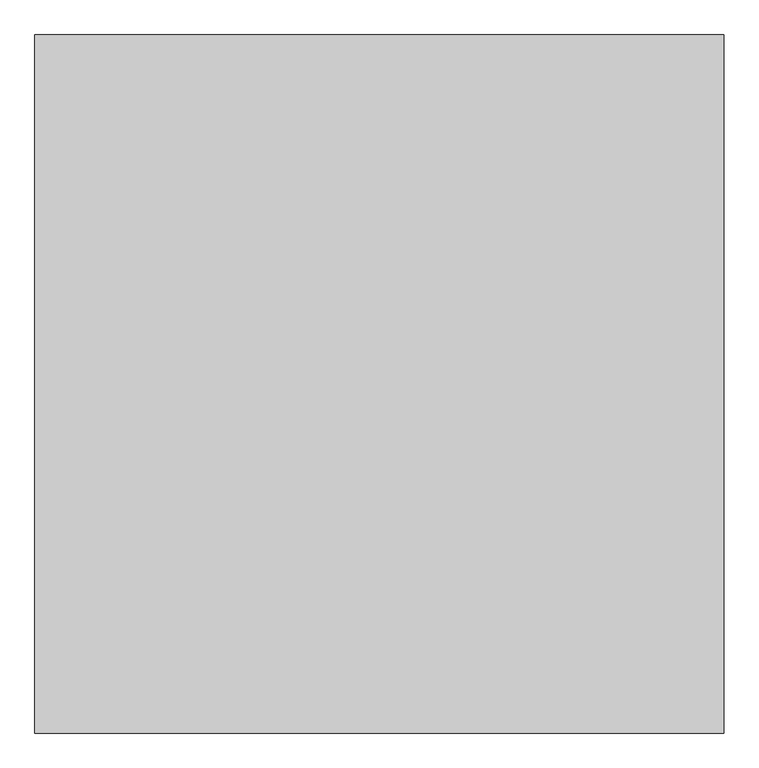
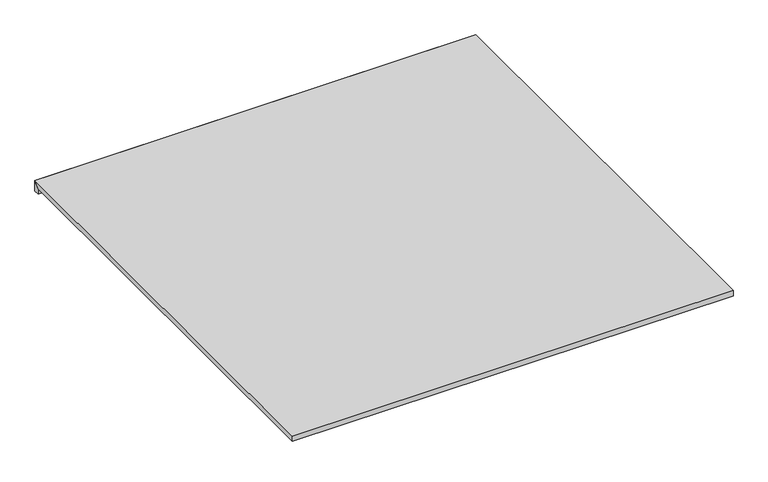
"""IFC4 building model written with IfcOpenShell, lengths in millimetres: proxy geometry, AERO^OFFICE 1_WALL HUNGS-60x60 LT."""

from ifc_helpers import new_model, si_unit, frame, origin, place, context, project, spatial, polyline, outline, extrude, source, transform, mapped, element, save


def generic_models_580d9588(model_context):
    return source(origin(), model_context, "Body", "SweptSolid", [
        extrude(outline(polyline([(1543.05, 19.05), (1524.0, 0.0), (0.0, 0.0), (0.0, 19.05), (1543.05, 19.05)])), frame((0.0, 0.0, 0.0), z_axis=(1.0, 0.0, 0.0), x_axis=(0.0, 1.0, 0.0)), (0.0, 0.0, 1.0), 1524.0),
        extrude(outline(polyline([(1543.05, 19.05), (1543.05, -19.05), (1524.0, -19.05), (1524.0, 0.0), (1543.05, 19.05)])), frame((0.0, 0.0, 0.0), z_axis=(1.0, 0.0, 0.0), x_axis=(0.0, 1.0, 0.0)), (0.0, 0.0, 1.0), 1524.0),
    ])


if __name__ == "__main__":
    model = new_model("IFC4")
    model_context = context("Model", 3, world=origin())
    ifc_project = project(units=[si_unit("LENGTHUNIT", "METRE", prefix="MILLI")], contexts=[model_context])
    site = spatial("IfcSite", under=ifc_project)
    building = spatial("IfcBuilding", under=site)
    placement = place(None, origin())
    generic_models_shape = generic_models_580d9588(model_context)
    element("IfcBuildingElementProxy", 1, Name="AERO^OFFICE 1_WALL HUNGS-60x60 LT", ObjectType="AERO^OFFICE 1_WALL HUNGS-60x60 LT", at=placement, inside=building, context=model_context, shape_type="MappedRepresentation", body=[
        mapped(generic_models_shape, transform((0.0, 0.0, 0.0), x_axis=(1.0, 0.0, 0.0), y_axis=(0.0, 1.0, 0.0), z_axis=(0.0, 0.0, 1.0))),
    ])
    save(model, "model.ifc")
